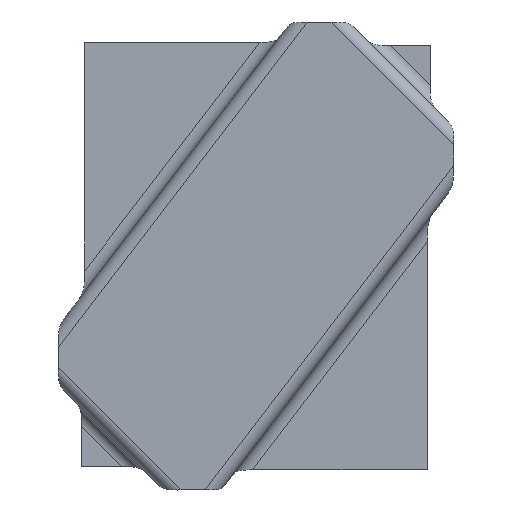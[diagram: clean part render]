
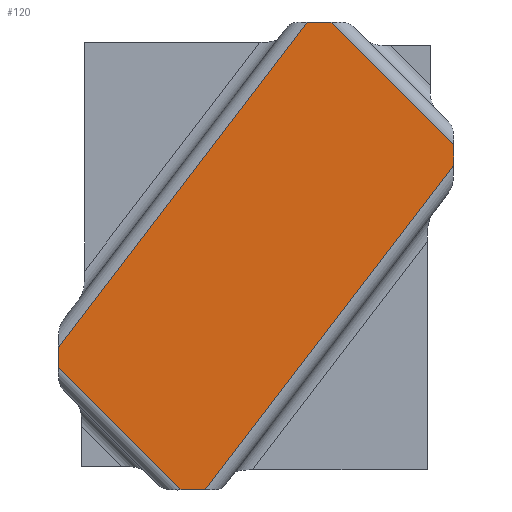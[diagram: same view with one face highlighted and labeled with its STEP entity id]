
A CAD part, top view. The second image highlights one B-rep face of the part: STEP entity #120.
In plain terms, the highlighted planar face has unit normal (0, 0, -1).
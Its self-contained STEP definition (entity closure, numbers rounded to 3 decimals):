
#53=CARTESIAN_POINT('Axis2P3D Location',(-51.363,39.302,65.175)) ;
#59=CARTESIAN_POINT('Control Point',(-51.363,78.676,65.175)) ;
#60=CARTESIAN_POINT('Control Point',(17.217,168.302,65.175)) ;
#61=CARTESIAN_POINT('Vertex',(-51.363,78.676,65.175)) ;
#63=CARTESIAN_POINT('Vertex',(17.217,168.302,65.175)) ;
#66=CARTESIAN_POINT('Line Origine',(3.137,168.302,65.175)) ;
#70=CARTESIAN_POINT('Vertex',(23.811,168.302,65.175)) ;
#74=CARTESIAN_POINT('Control Point',(23.811,168.302,65.175)) ;
#75=CARTESIAN_POINT('Control Point',(57.637,134.476,65.175)) ;
#76=CARTESIAN_POINT('Vertex',(57.637,134.476,65.175)) ;
#79=CARTESIAN_POINT('Line Origine',(57.637,103.802,65.175)) ;
#83=CARTESIAN_POINT('Vertex',(57.637,128.832,65.175)) ;
#87=CARTESIAN_POINT('Control Point',(57.637,128.832,65.175)) ;
#88=CARTESIAN_POINT('Control Point',(-10.87,39.302,65.175)) ;
#89=CARTESIAN_POINT('Vertex',(-10.87,39.302,65.175)) ;
#92=CARTESIAN_POINT('Line Origine',(3.137,39.302,65.175)) ;
#96=CARTESIAN_POINT('Vertex',(-17.537,39.302,65.175)) ;
#100=CARTESIAN_POINT('Control Point',(-51.363,73.128,65.175)) ;
#101=CARTESIAN_POINT('Control Point',(-17.537,39.302,65.175)) ;
#102=CARTESIAN_POINT('Vertex',(-51.363,73.128,65.175)) ;
#105=CARTESIAN_POINT('Line Origine',(-51.363,103.802,65.175)) ;
#54=DIRECTION('Axis2P3D Direction',(0.,0.,1.)) ;
#55=DIRECTION('Axis2P3D XDirection',(1.,0.,0.)) ;
#67=DIRECTION('Vector Direction',(1.,0.,0.)) ;
#80=DIRECTION('Vector Direction',(0.,1.,0.)) ;
#93=DIRECTION('Vector Direction',(1.,0.,0.)) ;
#106=DIRECTION('Vector Direction',(0.,1.,0.)) ;
#56=AXIS2_PLACEMENT_3D('Plane Axis2P3D',#53,#54,#55) ;
#111=ORIENTED_EDGE('',*,*,#65,.T.) ;
#112=ORIENTED_EDGE('',*,*,#72,.T.) ;
#113=ORIENTED_EDGE('',*,*,#78,.T.) ;
#114=ORIENTED_EDGE('',*,*,#85,.T.) ;
#115=ORIENTED_EDGE('',*,*,#91,.T.) ;
#116=ORIENTED_EDGE('',*,*,#98,.T.) ;
#117=ORIENTED_EDGE('',*,*,#104,.F.) ;
#118=ORIENTED_EDGE('',*,*,#109,.T.) ;
#68=VECTOR('Line Direction',#67,1.) ;
#81=VECTOR('Line Direction',#80,1.) ;
#94=VECTOR('Line Direction',#93,1.) ;
#107=VECTOR('Line Direction',#106,1.) ;
#120=ADVANCED_FACE('Offset.1',(#119),#57,.F.) ;
#58=B_SPLINE_CURVE_WITH_KNOTS('',1,(#59,#60),.UNSPECIFIED.,.F.,.U.,(2,2),(-56.427,56.427),.UNSPECIFIED.) ;
#73=B_SPLINE_CURVE_WITH_KNOTS('',1,(#74,#75),.UNSPECIFIED.,.F.,.U.,(2,2),(-23.919,23.919),.UNSPECIFIED.) ;
#86=B_SPLINE_CURVE_WITH_KNOTS('',1,(#87,#88),.UNSPECIFIED.,.F.,.U.,(2,2),(-56.367,56.367),.UNSPECIFIED.) ;
#99=B_SPLINE_CURVE_WITH_KNOTS('',1,(#100,#101),.UNSPECIFIED.,.F.,.U.,(2,2),(-23.919,23.919),.UNSPECIFIED.) ;
#65=EDGE_CURVE('',#62,#64,#58,.T.) ;
#72=EDGE_CURVE('',#64,#71,#69,.T.) ;
#78=EDGE_CURVE('',#71,#77,#73,.T.) ;
#85=EDGE_CURVE('',#77,#84,#82,.F.) ;
#91=EDGE_CURVE('',#84,#90,#86,.T.) ;
#98=EDGE_CURVE('',#90,#97,#95,.F.) ;
#104=EDGE_CURVE('',#103,#97,#99,.T.) ;
#109=EDGE_CURVE('',#103,#62,#108,.T.) ;
#110=EDGE_LOOP('',(#111,#112,#113,#114,#115,#116,#117,#118)) ;
#119=FACE_OUTER_BOUND('',#110,.T.) ;
#69=LINE('Line',#66,#68) ;
#82=LINE('Line',#79,#81) ;
#95=LINE('Line',#92,#94) ;
#108=LINE('Line',#105,#107) ;
#57=PLANE('',#56) ;
#62=VERTEX_POINT('',#61) ;
#64=VERTEX_POINT('',#63) ;
#71=VERTEX_POINT('',#70) ;
#77=VERTEX_POINT('',#76) ;
#84=VERTEX_POINT('',#83) ;
#90=VERTEX_POINT('',#89) ;
#97=VERTEX_POINT('',#96) ;
#103=VERTEX_POINT('',#102) ;
